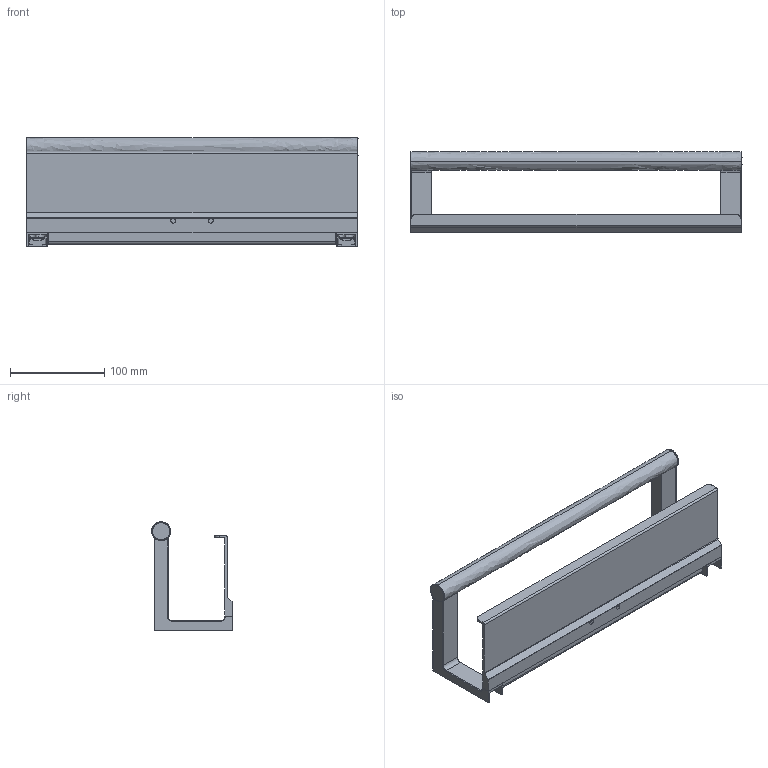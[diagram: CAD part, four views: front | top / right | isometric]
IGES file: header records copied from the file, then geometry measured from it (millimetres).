
Start section: SolidWorks IGES file using NURBS representation for surfaces
Global section: file name: G:\4- VARIOS\9 - Web Files\ARCHITECT S+\235##49-W.IGS; native system: SolidWorks 2016; preprocessor: SolidWorks 2016; author: vegrut01; date: 201027.100723; units: millimetre
Bounding box: 352 x 85.5 x 115 mm (x, y, z)
Surface area: 135500.6 mm2 (no closed solid volume)
Topology: 0 solids, 0 shells, 168 faces, 2878 edges, 3454 vertices
Faces by surface type: bspline 168
